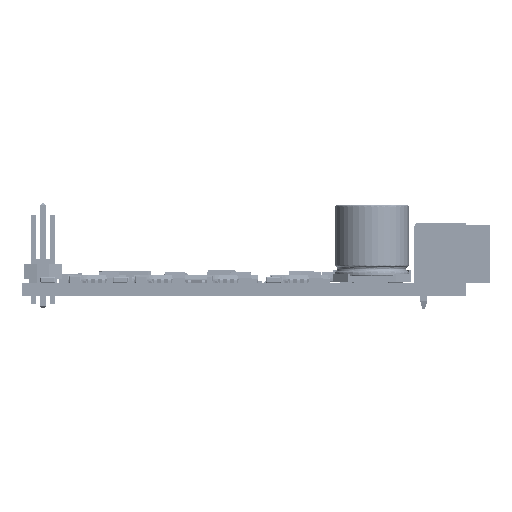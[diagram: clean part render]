
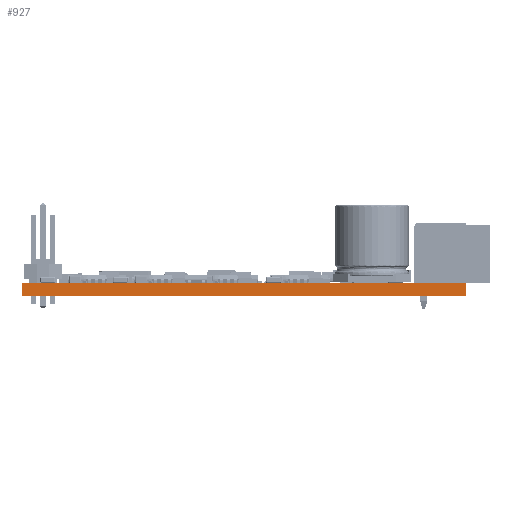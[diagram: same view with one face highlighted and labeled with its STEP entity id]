
A CAD part, left-side view. The second image highlights one B-rep face of the part: STEP entity #927.
In plain terms, the highlighted planar face has unit normal (-1, 0, 0).
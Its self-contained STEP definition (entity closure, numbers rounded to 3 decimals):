
#664 = EDGE_CURVE('',#665,#667,#669,.T.);
#665 = VERTEX_POINT('',#666);
#666 = CARTESIAN_POINT('',(0.,60.,0.));
#667 = VERTEX_POINT('',#668);
#668 = CARTESIAN_POINT('',(0.,60.,1.683));
#669 = SURFACE_CURVE('',#670,(#674,#686),.PCURVE_S1.);
#670 = LINE('',#671,#672);
#671 = CARTESIAN_POINT('',(0.,60.,0.));
#672 = VECTOR('',#673,1.);
#673 = DIRECTION('',(0.,0.,1.));
#674 = PCURVE('',#675,#680);
#675 = PLANE('',#676);
#676 = AXIS2_PLACEMENT_3D('',#677,#678,#679);
#677 = CARTESIAN_POINT('',(0.,60.,0.));
#678 = DIRECTION('',(0.,1.,0.));
#679 = DIRECTION('',(1.,0.,0.));
#680 = DEFINITIONAL_REPRESENTATION('',(#681),#685);
#681 = LINE('',#682,#683);
#682 = CARTESIAN_POINT('',(0.,0.));
#683 = VECTOR('',#684,1.);
#684 = DIRECTION('',(0.,-1.));
#685 = ( GEOMETRIC_REPRESENTATION_CONTEXT(2) 
PARAMETRIC_REPRESENTATION_CONTEXT() REPRESENTATION_CONTEXT('2D SPACE',''
  ) );
#686 = PCURVE('',#687,#692);
#687 = PLANE('',#688);
#688 = AXIS2_PLACEMENT_3D('',#689,#690,#691);
#689 = CARTESIAN_POINT('',(0.,0.,0.));
#690 = DIRECTION('',(-1.,0.,0.));
#691 = DIRECTION('',(0.,1.,0.));
#692 = DEFINITIONAL_REPRESENTATION('',(#693),#697);
#693 = LINE('',#694,#695);
#694 = CARTESIAN_POINT('',(60.,0.));
#695 = VECTOR('',#696,1.);
#696 = DIRECTION('',(0.,-1.));
#697 = ( GEOMETRIC_REPRESENTATION_CONTEXT(2) 
PARAMETRIC_REPRESENTATION_CONTEXT() REPRESENTATION_CONTEXT('2D SPACE',''
  ) );
#715 = PLANE('',#716);
#716 = AXIS2_PLACEMENT_3D('',#717,#718,#719);
#717 = CARTESIAN_POINT('',(0.,60.,1.683));
#718 = DIRECTION('',(0.,0.,1.));
#719 = DIRECTION('',(1.,0.,0.));
#769 = PLANE('',#770);
#770 = AXIS2_PLACEMENT_3D('',#771,#772,#773);
#771 = CARTESIAN_POINT('',(0.,60.,0.));
#772 = DIRECTION('',(0.,0.,1.));
#773 = DIRECTION('',(1.,0.,0.));
#824 = PLANE('',#825);
#825 = AXIS2_PLACEMENT_3D('',#826,#827,#828);
#826 = CARTESIAN_POINT('',(66.,0.,0.));
#827 = DIRECTION('',(0.,-1.,0.));
#828 = DIRECTION('',(-1.,0.,0.));
#862 = VERTEX_POINT('',#863);
#863 = CARTESIAN_POINT('',(0.,0.,1.683));
#884 = EDGE_CURVE('',#885,#862,#887,.T.);
#885 = VERTEX_POINT('',#886);
#886 = CARTESIAN_POINT('',(0.,0.,0.));
#887 = SURFACE_CURVE('',#888,(#892,#899),.PCURVE_S1.);
#888 = LINE('',#889,#890);
#889 = CARTESIAN_POINT('',(0.,0.,0.));
#890 = VECTOR('',#891,1.);
#891 = DIRECTION('',(0.,0.,1.));
#892 = PCURVE('',#824,#893);
#893 = DEFINITIONAL_REPRESENTATION('',(#894),#898);
#894 = LINE('',#895,#896);
#895 = CARTESIAN_POINT('',(66.,0.));
#896 = VECTOR('',#897,1.);
#897 = DIRECTION('',(0.,-1.));
#898 = ( GEOMETRIC_REPRESENTATION_CONTEXT(2) 
PARAMETRIC_REPRESENTATION_CONTEXT() REPRESENTATION_CONTEXT('2D SPACE',''
  ) );
#899 = PCURVE('',#687,#900);
#900 = DEFINITIONAL_REPRESENTATION('',(#901),#905);
#901 = LINE('',#902,#903);
#902 = CARTESIAN_POINT('',(0.,0.));
#903 = VECTOR('',#904,1.);
#904 = DIRECTION('',(0.,-1.));
#905 = ( GEOMETRIC_REPRESENTATION_CONTEXT(2) 
PARAMETRIC_REPRESENTATION_CONTEXT() REPRESENTATION_CONTEXT('2D SPACE',''
  ) );
#927 = ADVANCED_FACE('',(#928),#687,.T.);
#928 = FACE_BOUND('',#929,.T.);
#929 = EDGE_LOOP('',(#930,#931,#952,#953));
#930 = ORIENTED_EDGE('',*,*,#884,.T.);
#931 = ORIENTED_EDGE('',*,*,#932,.T.);
#932 = EDGE_CURVE('',#862,#667,#933,.T.);
#933 = SURFACE_CURVE('',#934,(#938,#945),.PCURVE_S1.);
#934 = LINE('',#935,#936);
#935 = CARTESIAN_POINT('',(0.,0.,1.683));
#936 = VECTOR('',#937,1.);
#937 = DIRECTION('',(0.,1.,0.));
#938 = PCURVE('',#687,#939);
#939 = DEFINITIONAL_REPRESENTATION('',(#940),#944);
#940 = LINE('',#941,#942);
#941 = CARTESIAN_POINT('',(0.,-1.683));
#942 = VECTOR('',#943,1.);
#943 = DIRECTION('',(1.,0.));
#944 = ( GEOMETRIC_REPRESENTATION_CONTEXT(2) 
PARAMETRIC_REPRESENTATION_CONTEXT() REPRESENTATION_CONTEXT('2D SPACE',''
  ) );
#945 = PCURVE('',#715,#946);
#946 = DEFINITIONAL_REPRESENTATION('',(#947),#951);
#947 = LINE('',#948,#949);
#948 = CARTESIAN_POINT('',(0.,-60.));
#949 = VECTOR('',#950,1.);
#950 = DIRECTION('',(0.,1.));
#951 = ( GEOMETRIC_REPRESENTATION_CONTEXT(2) 
PARAMETRIC_REPRESENTATION_CONTEXT() REPRESENTATION_CONTEXT('2D SPACE',''
  ) );
#952 = ORIENTED_EDGE('',*,*,#664,.F.);
#953 = ORIENTED_EDGE('',*,*,#954,.F.);
#954 = EDGE_CURVE('',#885,#665,#955,.T.);
#955 = SURFACE_CURVE('',#956,(#960,#967),.PCURVE_S1.);
#956 = LINE('',#957,#958);
#957 = CARTESIAN_POINT('',(0.,0.,0.));
#958 = VECTOR('',#959,1.);
#959 = DIRECTION('',(0.,1.,0.));
#960 = PCURVE('',#687,#961);
#961 = DEFINITIONAL_REPRESENTATION('',(#962),#966);
#962 = LINE('',#963,#964);
#963 = CARTESIAN_POINT('',(0.,0.));
#964 = VECTOR('',#965,1.);
#965 = DIRECTION('',(1.,0.));
#966 = ( GEOMETRIC_REPRESENTATION_CONTEXT(2) 
PARAMETRIC_REPRESENTATION_CONTEXT() REPRESENTATION_CONTEXT('2D SPACE',''
  ) );
#967 = PCURVE('',#769,#968);
#968 = DEFINITIONAL_REPRESENTATION('',(#969),#973);
#969 = LINE('',#970,#971);
#970 = CARTESIAN_POINT('',(0.,-60.));
#971 = VECTOR('',#972,1.);
#972 = DIRECTION('',(0.,1.));
#973 = ( GEOMETRIC_REPRESENTATION_CONTEXT(2) 
PARAMETRIC_REPRESENTATION_CONTEXT() REPRESENTATION_CONTEXT('2D SPACE',''
  ) );
